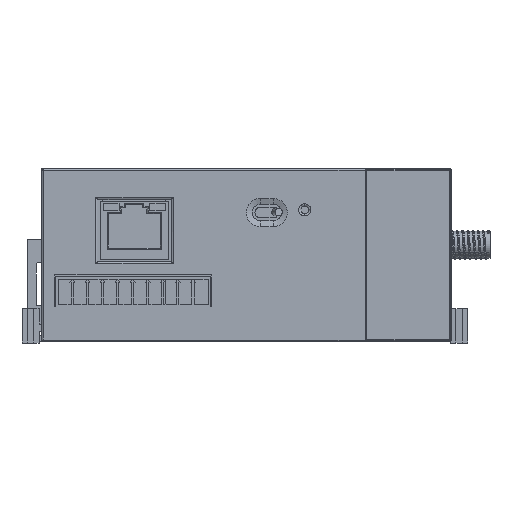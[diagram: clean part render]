
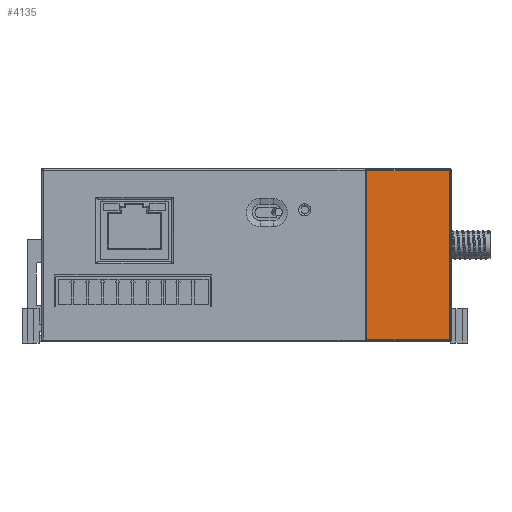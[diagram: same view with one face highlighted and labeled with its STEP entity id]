
A CAD part, left-side view. The second image highlights one B-rep face of the part: STEP entity #4135.
In plain terms, the highlighted planar face has unit normal (-1, 0, 0).
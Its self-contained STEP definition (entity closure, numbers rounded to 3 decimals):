
#778 = CARTESIAN_POINT ( 'NONE',  ( -52.527, -35.547, 16.258 ) ) ;
#3460 = ORIENTED_EDGE ( 'NONE', *, *, #26325, .T. ) ;
#4135 = ADVANCED_FACE ( 'NONE', ( #24655 ), #16236, .F. ) ;
#5315 = VERTEX_POINT ( 'NONE', #10611 ) ;
#7806 = CARTESIAN_POINT ( 'NONE',  ( -52.527, -45.165, -3.36 ) ) ;
#8662 = EDGE_CURVE ( 'NONE', #51439, #51080, #13016, .T. ) ;
#10611 = CARTESIAN_POINT ( 'NONE',  ( -52.527, -35.547, -22.978 ) ) ;
#11022 = EDGE_CURVE ( 'NONE', #42336, #51439, #13331, .T. ) ;
#13016 = LINE ( 'NONE', #34714, #42852 ) ;
#13331 = LINE ( 'NONE', #25809, #20889 ) ;
#13603 = ORIENTED_EDGE ( 'NONE', *, *, #8662, .T. ) ;
#13755 = DIRECTION ( 'NONE',  ( 0., 0., -1. ) ) ;
#13878 = LINE ( 'NONE', #25839, #17699 ) ;
#16236 = PLANE ( 'NONE',  #23508 ) ;
#17699 = VECTOR ( 'NONE', #42977, 1000. ) ;
#20889 = VECTOR ( 'NONE', #22262, 1000. ) ;
#21519 = VECTOR ( 'NONE', #13755, 1000. ) ;
#22262 = DIRECTION ( 'NONE',  ( 0., 0., 1. ) ) ;
#22692 = ORIENTED_EDGE ( 'NONE', *, *, #11022, .T. ) ;
#23508 = AXIS2_PLACEMENT_3D ( 'NONE', #7806, #33062, #44791 ) ;
#24655 = FACE_OUTER_BOUND ( 'NONE', #47067, .T. ) ;
#25809 = CARTESIAN_POINT ( 'NONE',  ( -52.527, -54.783, -3.36 ) ) ;
#25839 = CARTESIAN_POINT ( 'NONE',  ( -52.527, -45.165, -22.978 ) ) ;
#25969 = CARTESIAN_POINT ( 'NONE',  ( -52.527, -35.547, -3.36 ) ) ;
#26325 = EDGE_CURVE ( 'NONE', #51080, #5315, #29777, .T. ) ;
#29777 = LINE ( 'NONE', #25969, #21519 ) ;
#30311 = CARTESIAN_POINT ( 'NONE',  ( -52.527, -54.783, 16.258 ) ) ;
#31899 = CARTESIAN_POINT ( 'NONE',  ( -52.527, -54.783, -22.978 ) ) ;
#33062 = DIRECTION ( 'NONE',  ( 1., 0., 0. ) ) ;
#34714 = CARTESIAN_POINT ( 'NONE',  ( -52.527, -45.165, 16.258 ) ) ;
#35749 = ORIENTED_EDGE ( 'NONE', *, *, #50585, .T. ) ;
#42336 = VERTEX_POINT ( 'NONE', #31899 ) ;
#42852 = VECTOR ( 'NONE', #46179, 1000. ) ;
#42977 = DIRECTION ( 'NONE',  ( 0., -1., 0. ) ) ;
#44791 = DIRECTION ( 'NONE',  ( 0., 1., 0. ) ) ;
#46179 = DIRECTION ( 'NONE',  ( 0., 1., 0. ) ) ;
#47067 = EDGE_LOOP ( 'NONE', ( #3460, #35749, #22692, #13603 ) ) ;
#50585 = EDGE_CURVE ( 'NONE', #5315, #42336, #13878, .T. ) ;
#51080 = VERTEX_POINT ( 'NONE', #778 ) ;
#51439 = VERTEX_POINT ( 'NONE', #30311 ) ;
